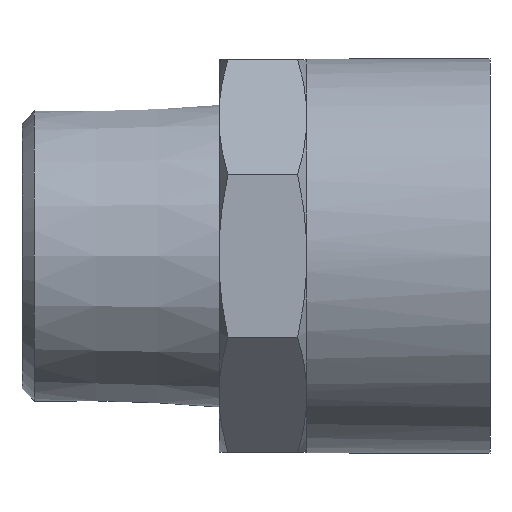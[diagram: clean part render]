
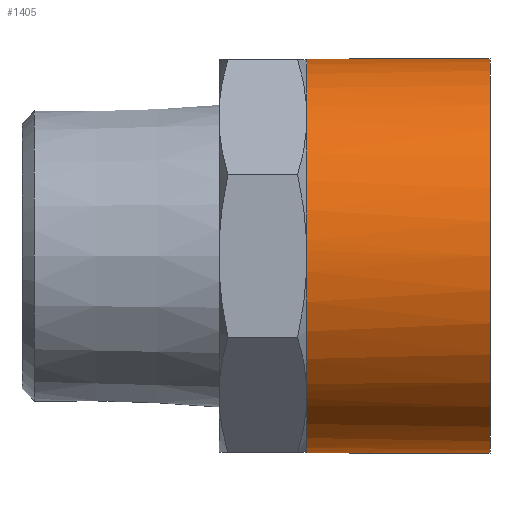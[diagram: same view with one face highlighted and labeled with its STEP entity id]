
A CAD part, front view. The second image highlights one B-rep face of the part: STEP entity #1405.
In plain terms, the highlighted cylindrical face has radius 16 mm (diameter 32 mm), a full revolution.
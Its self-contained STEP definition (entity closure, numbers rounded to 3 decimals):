
#73=CARTESIAN_POINT('',(23.108,10.385,12.172));
#74=VERTEX_POINT('',#73);
#90=CARTESIAN_POINT('',(23.108,12.172,10.385));
#91=VERTEX_POINT('',#90);
#173=CARTESIAN_POINT('',(23.108,-10.385,12.172));
#174=VERTEX_POINT('',#173);
#175=CARTESIAN_POINT('',(23.108,-12.172,10.385));
#176=VERTEX_POINT('',#175);
#177=CARTESIAN_POINT('',(23.108,0.0,0.0));
#178=DIRECTION('',(1.0,0.0,0.0));
#179=DIRECTION('',(0.0,1.0,0.0));
#180=AXIS2_PLACEMENT_3D('',#177,#178,#179);
#181=CIRCLE('',#180,16.0);
#182=EDGE_CURVE('',#174,#176,#181,.T.);
#198=CARTESIAN_POINT('',(23.108,-15.95,1.264));
#199=VERTEX_POINT('',#198);
#200=CARTESIAN_POINT('',(23.108,-15.95,-1.264));
#201=VERTEX_POINT('',#200);
#202=CARTESIAN_POINT('',(23.108,0.0,0.0));
#203=DIRECTION('',(1.0,0.0,0.0));
#204=DIRECTION('',(0.0,1.0,0.0));
#205=AXIS2_PLACEMENT_3D('',#202,#203,#204);
#206=CIRCLE('',#205,16.0);
#207=EDGE_CURVE('',#199,#201,#206,.T.);
#223=CARTESIAN_POINT('',(23.108,-12.172,-10.385));
#224=VERTEX_POINT('',#223);
#225=CARTESIAN_POINT('',(23.108,-10.385,-12.172));
#226=VERTEX_POINT('',#225);
#227=CARTESIAN_POINT('',(23.108,0.0,0.0));
#228=DIRECTION('',(1.0,0.0,0.0));
#229=DIRECTION('',(0.0,1.0,0.0));
#230=AXIS2_PLACEMENT_3D('',#227,#228,#229);
#231=CIRCLE('',#230,16.0);
#232=EDGE_CURVE('',#224,#226,#231,.T.);
#248=CARTESIAN_POINT('',(23.108,-1.264,-15.95));
#249=VERTEX_POINT('',#248);
#250=CARTESIAN_POINT('',(23.108,1.264,-15.95));
#251=VERTEX_POINT('',#250);
#252=CARTESIAN_POINT('',(23.108,0.0,0.0));
#253=DIRECTION('',(1.0,0.0,0.0));
#254=DIRECTION('',(0.0,1.0,0.0));
#255=AXIS2_PLACEMENT_3D('',#252,#253,#254);
#256=CIRCLE('',#255,16.0);
#257=EDGE_CURVE('',#249,#251,#256,.T.);
#273=CARTESIAN_POINT('',(23.108,10.385,-12.172));
#274=VERTEX_POINT('',#273);
#275=CARTESIAN_POINT('',(23.108,12.172,-10.385));
#276=VERTEX_POINT('',#275);
#277=CARTESIAN_POINT('',(23.108,0.0,0.0));
#278=DIRECTION('',(1.0,0.0,0.0));
#279=DIRECTION('',(0.0,1.0,0.0));
#280=AXIS2_PLACEMENT_3D('',#277,#278,#279);
#281=CIRCLE('',#280,16.0);
#282=EDGE_CURVE('',#274,#276,#281,.T.);
#298=CARTESIAN_POINT('',(23.108,15.95,-1.264));
#299=VERTEX_POINT('',#298);
#300=CARTESIAN_POINT('',(23.108,15.95,1.264));
#301=VERTEX_POINT('',#300);
#302=CARTESIAN_POINT('',(23.108,0.0,0.0));
#303=DIRECTION('',(1.0,0.0,0.0));
#304=DIRECTION('',(0.0,1.0,0.0));
#305=AXIS2_PLACEMENT_3D('',#302,#303,#304);
#306=CIRCLE('',#305,16.0);
#307=EDGE_CURVE('',#299,#301,#306,.T.);
#815=CARTESIAN_POINT('',(23.108,0.0,0.0));
#816=DIRECTION('',(1.0,0.0,0.0));
#817=DIRECTION('',(0.0,1.0,0.0));
#818=AXIS2_PLACEMENT_3D('',#815,#816,#817);
#819=CIRCLE('',#818,16.0);
#820=EDGE_CURVE('',#91,#74,#819,.T.);
#924=CARTESIAN_POINT('',(23.108,-1.264,15.95));
#925=VERTEX_POINT('',#924);
#926=CARTESIAN_POINT('',(23.108,0.0,0.0));
#927=DIRECTION('',(1.0,0.0,0.0));
#928=DIRECTION('',(0.0,1.0,0.0));
#929=AXIS2_PLACEMENT_3D('',#926,#927,#928);
#930=CIRCLE('',#929,16.0);
#931=EDGE_CURVE('',#925,#174,#930,.T.);
#955=CARTESIAN_POINT('',(23.108,0.0,0.0));
#956=DIRECTION('',(1.0,0.0,0.0));
#957=DIRECTION('',(0.0,1.0,0.0));
#958=AXIS2_PLACEMENT_3D('',#955,#956,#957);
#959=CIRCLE('',#958,16.0);
#960=EDGE_CURVE('',#176,#199,#959,.T.);
#972=CARTESIAN_POINT('',(23.108,0.0,0.0));
#973=DIRECTION('',(1.0,0.0,0.0));
#974=DIRECTION('',(0.0,1.0,0.0));
#975=AXIS2_PLACEMENT_3D('',#972,#973,#974);
#976=CIRCLE('',#975,16.0);
#977=EDGE_CURVE('',#201,#224,#976,.T.);
#989=CARTESIAN_POINT('',(23.108,0.0,0.0));
#990=DIRECTION('',(1.0,0.0,0.0));
#991=DIRECTION('',(0.0,1.0,0.0));
#992=AXIS2_PLACEMENT_3D('',#989,#990,#991);
#993=CIRCLE('',#992,16.0);
#994=EDGE_CURVE('',#226,#249,#993,.T.);
#1006=CARTESIAN_POINT('',(23.108,0.0,0.0));
#1007=DIRECTION('',(1.0,0.0,0.0));
#1008=DIRECTION('',(0.0,1.0,0.0));
#1009=AXIS2_PLACEMENT_3D('',#1006,#1007,#1008);
#1010=CIRCLE('',#1009,16.0);
#1011=EDGE_CURVE('',#251,#274,#1010,.T.);
#1023=CARTESIAN_POINT('',(23.108,0.0,0.0));
#1024=DIRECTION('',(1.0,0.0,0.0));
#1025=DIRECTION('',(0.0,1.0,0.0));
#1026=AXIS2_PLACEMENT_3D('',#1023,#1024,#1025);
#1027=CIRCLE('',#1026,16.0);
#1028=EDGE_CURVE('',#276,#299,#1027,.T.);
#1040=CARTESIAN_POINT('',(23.108,0.0,0.0));
#1041=DIRECTION('',(1.0,0.0,0.0));
#1042=DIRECTION('',(0.0,1.0,0.0));
#1043=AXIS2_PLACEMENT_3D('',#1040,#1041,#1042);
#1044=CIRCLE('',#1043,16.0);
#1045=EDGE_CURVE('',#301,#91,#1044,.T.);
#1174=CARTESIAN_POINT('',(23.108,1.264,15.95));
#1175=VERTEX_POINT('',#1174);
#1203=CARTESIAN_POINT('',(23.108,0.0,0.0));
#1204=DIRECTION('',(1.0,0.0,0.0));
#1205=DIRECTION('',(0.0,1.0,0.0));
#1206=AXIS2_PLACEMENT_3D('',#1203,#1204,#1205);
#1207=CIRCLE('',#1206,16.0);
#1208=EDGE_CURVE('',#1175,#925,#1207,.T.);
#1221=CARTESIAN_POINT('',(23.108,0.0,0.0));
#1222=DIRECTION('',(1.0,0.0,0.0));
#1223=DIRECTION('',(0.0,1.0,0.0));
#1224=AXIS2_PLACEMENT_3D('',#1221,#1222,#1223);
#1225=CIRCLE('',#1224,16.0);
#1226=EDGE_CURVE('',#74,#1175,#1225,.T.);
#1371=CARTESIAN_POINT('',(30.554,0.0,0.0));
#1372=DIRECTION('',(1.0,0.0,0.0));
#1373=DIRECTION('',(0.0,1.0,0.0));
#1374=AXIS2_PLACEMENT_3D('',#1371,#1372,#1373);
#1375=CYLINDRICAL_SURFACE('',#1374,16.0);
#1376=CARTESIAN_POINT('',(38.0,16.0,0.0));
#1377=VERTEX_POINT('',#1376);
#1378=CARTESIAN_POINT('',(38.0,0.0,0.0));
#1379=DIRECTION('',(1.0,0.0,0.0));
#1380=DIRECTION('',(0.0,1.0,0.0));
#1381=AXIS2_PLACEMENT_3D('',#1378,#1379,#1380);
#1382=CIRCLE('',#1381,16.0);
#1383=EDGE_CURVE('',#1377,#1377,#1382,.T.);
#1384=ORIENTED_EDGE('',*,*,#1383,.F.);
#1385=EDGE_LOOP('',(#1384));
#1386=FACE_OUTER_BOUND('',#1385,.T.);
#1387=ORIENTED_EDGE('',*,*,#931,.T.);
#1388=ORIENTED_EDGE('',*,*,#182,.T.);
#1389=ORIENTED_EDGE('',*,*,#960,.T.);
#1390=ORIENTED_EDGE('',*,*,#207,.T.);
#1391=ORIENTED_EDGE('',*,*,#977,.T.);
#1392=ORIENTED_EDGE('',*,*,#232,.T.);
#1393=ORIENTED_EDGE('',*,*,#994,.T.);
#1394=ORIENTED_EDGE('',*,*,#257,.T.);
#1395=ORIENTED_EDGE('',*,*,#1011,.T.);
#1396=ORIENTED_EDGE('',*,*,#282,.T.);
#1397=ORIENTED_EDGE('',*,*,#1028,.T.);
#1398=ORIENTED_EDGE('',*,*,#307,.T.);
#1399=ORIENTED_EDGE('',*,*,#1045,.T.);
#1400=ORIENTED_EDGE('',*,*,#820,.T.);
#1401=ORIENTED_EDGE('',*,*,#1226,.T.);
#1402=ORIENTED_EDGE('',*,*,#1208,.T.);
#1403=EDGE_LOOP('',(#1387,#1388,#1389,#1390,#1391,#1392,#1393,#1394,#1395,#1396,#1397,#1398,#1399,#1400,#1401,#1402));
#1404=FACE_BOUND('',#1403,.T.);
#1405=ADVANCED_FACE('',(#1386,#1404),#1375,.T.);
